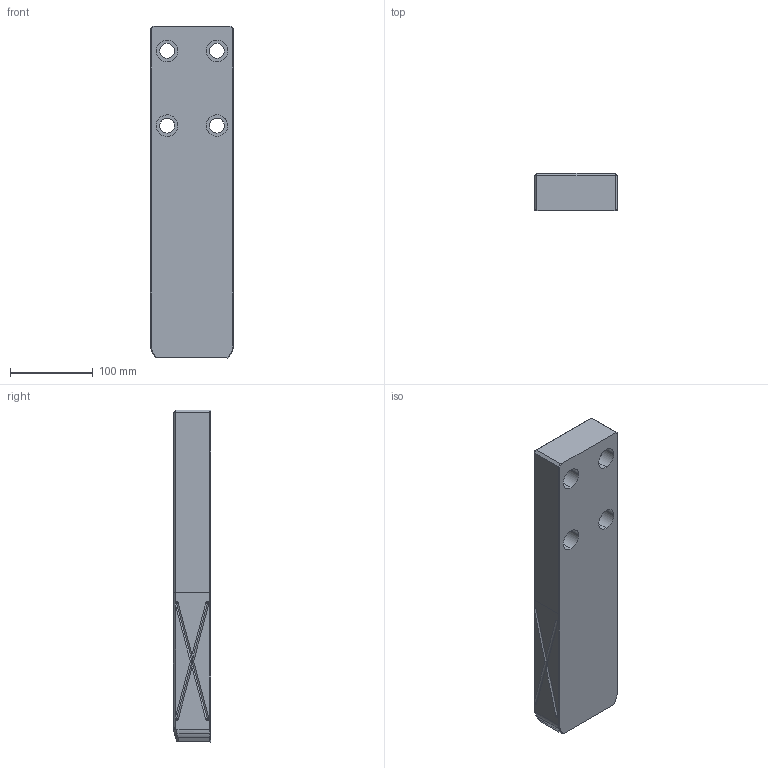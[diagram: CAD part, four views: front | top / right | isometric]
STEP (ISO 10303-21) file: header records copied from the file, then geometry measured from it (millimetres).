
FILE_DESCRIPTION(('CATIA V5 STEP Exchange'),'2;1');
FILE_NAME('D:\temp\color-modify-100929\GWB_6644-6654_R00\3d_gwb100-180-400_6649_r00.stp','2010-09-29T05:20:11+00:00',('none'),('none'),'CATIA Version 5 Release 18 SP 5 (IN-10)','CATIA V5 STEP AP214','none');
FILE_SCHEMA(('AUTOMOTIVE_DESIGN { 1 0 10303 214 1 1 1 1 }'));
Length unit declared in the file: millimetre
Products named in the file (1): GWB100-180-400
Bounding box: 100 x 45 x 400 mm (x, y, z)
Volume: 1714713.2 mm3; surface area: 134982.7 mm2
Topology: 1 solids, 1 shells, 140 faces, 370 edges, 214 vertices
Faces by surface type: cylinder 66, plane 38, revolution 24, cone 8, bspline 4
Entity records: 5338 total; most frequent: CARTESIAN_POINT 2315, ORIENTED_EDGE 692, DIRECTION 448, EDGE_CURVE 346, VERTEX_POINT 214, B_SPLINE_CURVE_WITH_KNOTS 170, AXIS2_PLACEMENT_3D 157, VECTOR 156
